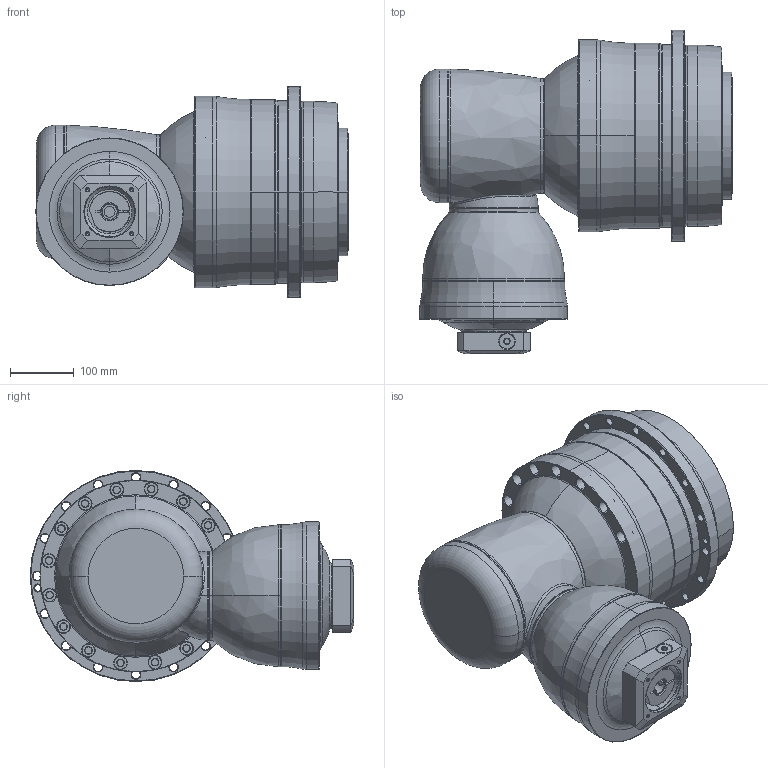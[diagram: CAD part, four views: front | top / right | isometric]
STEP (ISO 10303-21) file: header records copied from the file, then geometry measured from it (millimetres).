
FILE_DESCRIPTION((''),'2;1');
FILE_NAME('AHK285_4ST_24-P0409500101_ASM','2016-08-23T',('d01943'),(''),'PRO/ENGINEER BY PARAMETRIC TECHNOLOGY CORPORATION, 2008410','PRO/ENGINEER BY PARAMETRIC TECHNOLOGY CORPORATION, 2008410','');
FILE_SCHEMA(('CONFIG_CONTROL_DESIGN'));
Length unit declared in the file: millimetre
Products named in the file (12): P1008600002; P1832800001; P0278800003; P0359800003; P1315600001; P1007600001; P1317600001; P0409500101; P0503500010; P0912500201; 21711418017; AHK285_4ST_24-P0409500101_ASM
Assembly tree (11 placements, depth 2):
  AHK285_4ST_24-P0409500101_ASM
    P1008600002
    P1832800001
    P0278800003
    P0359800003
    P1315600001
    P1007600001
    P1317600001
    P0409500101
    P0503500010
    P0912500201
    21711418017
Bounding box: 491 x 508.5 x 332 mm (x, y, z)
Volume: 23155162.8 mm3; surface area: 1593482.1 mm2
Topology: 12 solids, 12 shells, 1060 faces, 2391 edges, 1379 vertices
Faces by surface type: cone 382, cylinder 370, plane 141, torus 126, bspline 39, sphere 2
Entity records: 36339 total; most frequent: CARTESIAN_POINT 12069, DIRECTION 5580, ORIENTED_EDGE 4638, AXIS2_PLACEMENT_3D 2378, EDGE_CURVE 2319, VERTEX_POINT 1379, CIRCLE 1334, EDGE_LOOP 1254
